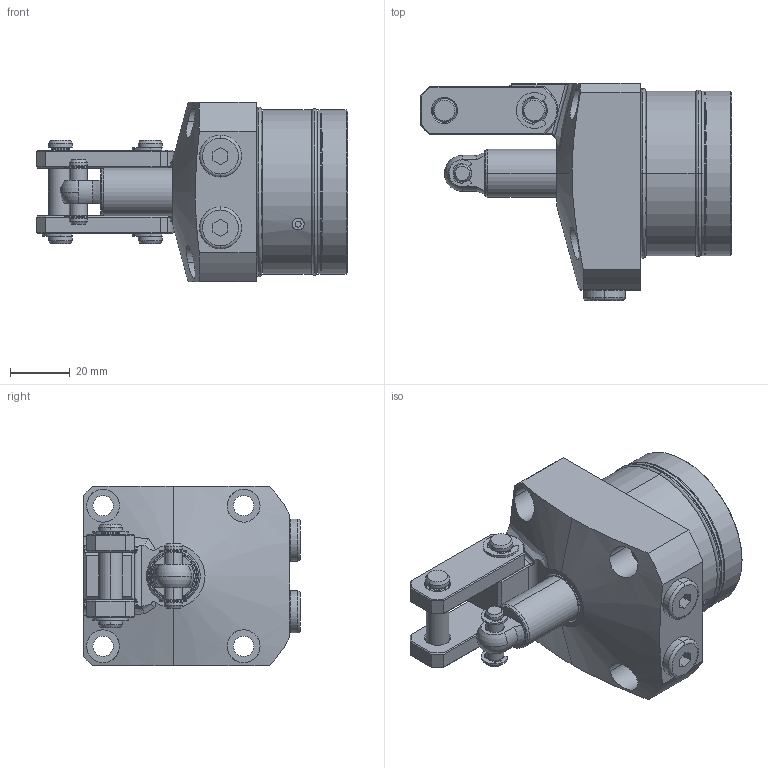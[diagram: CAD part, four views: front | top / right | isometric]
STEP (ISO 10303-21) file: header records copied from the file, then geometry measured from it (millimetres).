
FILE_DESCRIPTION(/* description */ (''),/* implementation_level */ '2;1');
FILE_NAME(/* name */ 'KTPW55-FJ.stp',/* time_stamp */ '2022-11-20T08:12:13+08:00',/* author */ (''),/* organization */ (''),/* preprocessor_version */ 'ST-DEVELOPER v16.7',/* originating_system */ 'SIEMENS PLM Software NX 12.0',/* authorisation */ '');
FILE_SCHEMA (('AP203_CONFIGURATION_CONTROLLED_3D_DESIGN_OF_MECHANICAL_PARTS_AND_ASSEMBLIES_MIM_LF { 1 0 10303 403 2 1 2}'));
Length unit declared in the file: millimetre
Products named in the file (11): KTPW55-FJ-03; KTPW55-FJ-010; KTPW55-FJ-01; KTPW55-FJ-07; KTPW55-FJ-02; KTPW55-FJ-08; KTPW55-FJ-09; KTPW55-FJ-05; KTPW55-FJ-06; KTPW55-FJ-04; LKW0551-CCJ_step
Assembly tree (17 placements, depth 2):
  LKW0551-CCJ_step
    KTPW55-FJ-04  x2
    KTPW55-FJ-06  x3
    KTPW55-FJ-05
    KTPW55-FJ-09  x2
    KTPW55-FJ-08  x2
    KTPW55-FJ-02
    KTPW55-FJ-07  x2
    KTPW55-FJ-01
    KTPW55-FJ-010  x2
    KTPW55-FJ-03
Bounding box: 104 x 72.5 x 60 mm (x, y, z)
Volume: 183783.8 mm3; surface area: 43032.1 mm2
Topology: 19 solids, 19 shells, 609 faces, 1405 edges, 867 vertices
Faces by surface type: cylinder 230, plane 184, torus 106, cone 78, bspline 9, sphere 2
Full cylindrical faces by diameter (mm): 55 x1
Entity records: 13401 total; most frequent: CARTESIAN_POINT 2929, DIRECTION 2067, ORIENTED_EDGE 1756, EDGE_CURVE 878, AXIS2_PLACEMENT_3D 860, VERTEX_POINT 540, CIRCLE 462, EDGE_LOOP 438
